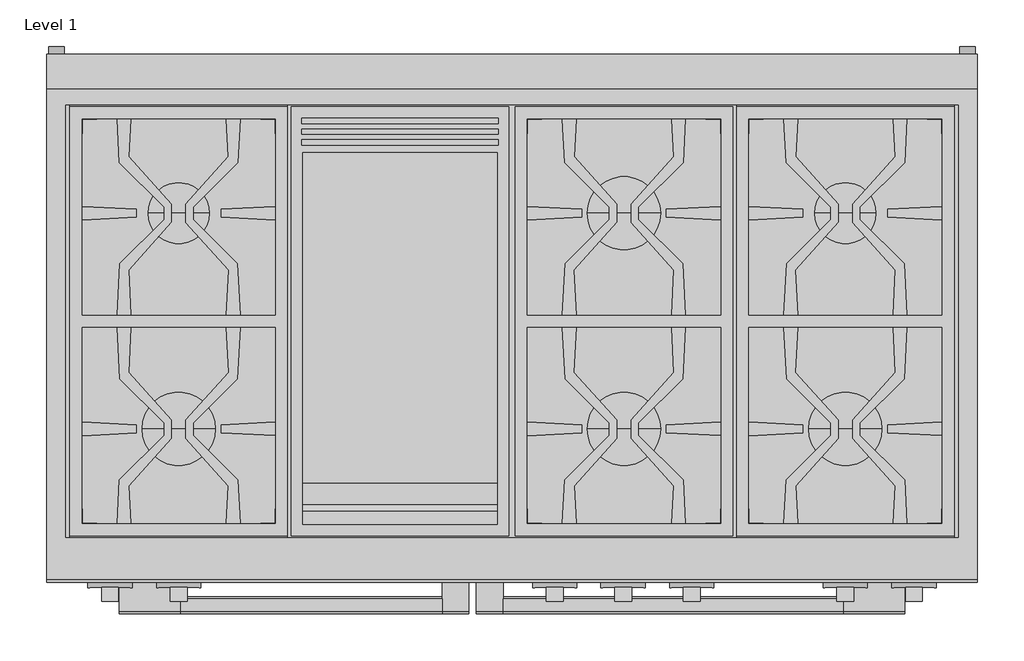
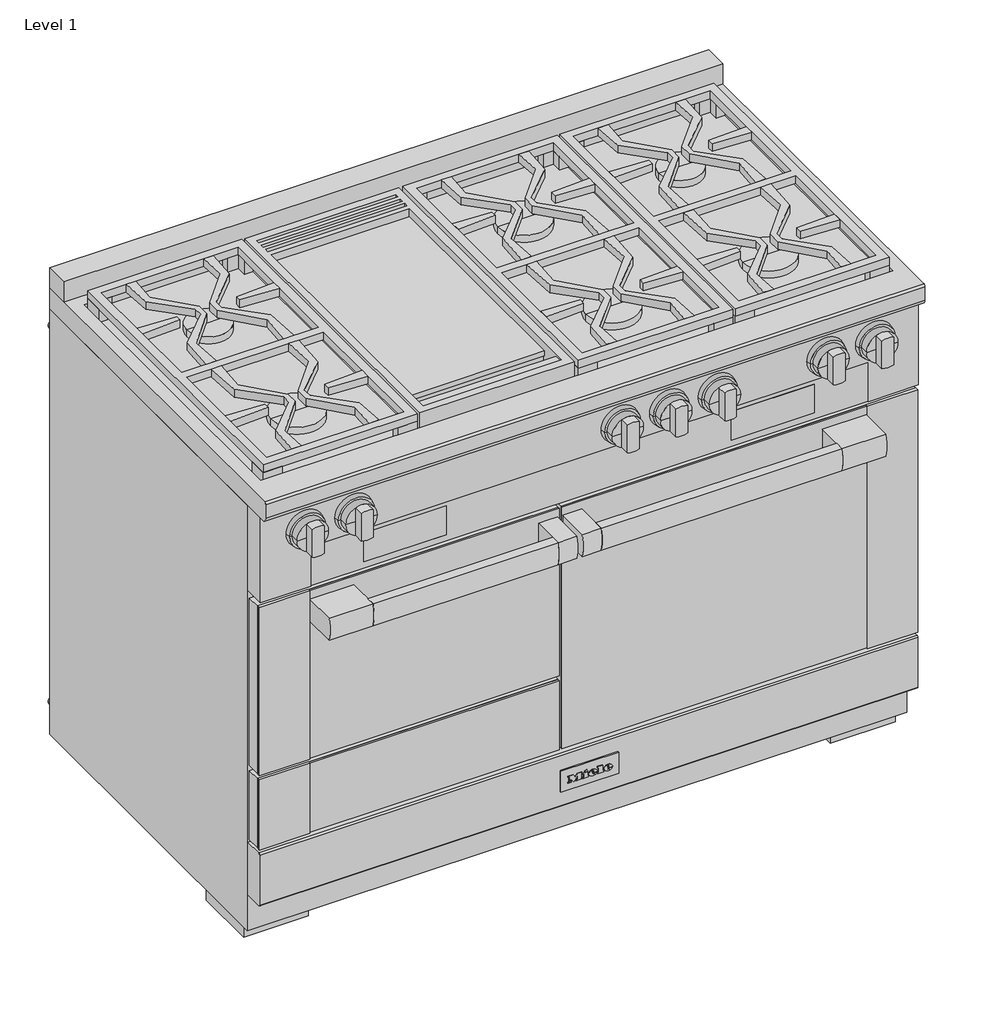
# One storey: 1 proxy.
"""IFC4 building model written with IfcOpenShell, lengths in millimetres."""

from ifc_helpers import new_model, si_unit, origin, place, context, project, spatial, transform, mapped, element, save
from components import specialty_equipment_7697040e, specialty_equipment_941c495b

model = new_model("IFC4")

# Units and contexts
model_context = context("Model", 3, world=origin())
ifc_project = project(units=[si_unit("LENGTHUNIT", "METRE", prefix="MILLI")], contexts=[model_context])

# Site, building, storey
site = spatial("IfcSite", under=ifc_project)
building = spatial("IfcBuilding", under=site)
storey = spatial("IfcBuildingStorey", under=building, Name="Level 1", Elevation=0.0)

# Proxy
placement = place(None, origin())
specialty_equipment_shape = specialty_equipment_7697040e(model_context)
specialty_equipment_2_shape = specialty_equipment_941c495b(model_context)
element("IfcBuildingElementProxy", 1, Name="11791700_USA_HR1956-3G_EDST-CLST : 25195681_USA_11791700_HR1956-3G_EDST-CLST", ObjectType="11791700_USA_HR1956-3G_EDST-CLST : 25195681_USA_11791700_HR1956-3G_EDST-CLST", at=placement, inside=storey, context=model_context, shape_type="MappedRepresentation", body=[
    mapped(specialty_equipment_shape, transform((0.0, 0.0, 0.0), x_axis=(1.0, 0.0, 0.0), y_axis=(0.0, 1.0, 0.0), z_axis=(0.0, 0.0, 1.0))),
    mapped(specialty_equipment_2_shape, transform((0.0, 0.0, 0.0), x_axis=(1.0, 0.0, 0.0), y_axis=(0.0, 1.0, 0.0), z_axis=(0.0, 0.0, 1.0))),
])

save(model, "model.ifc")
